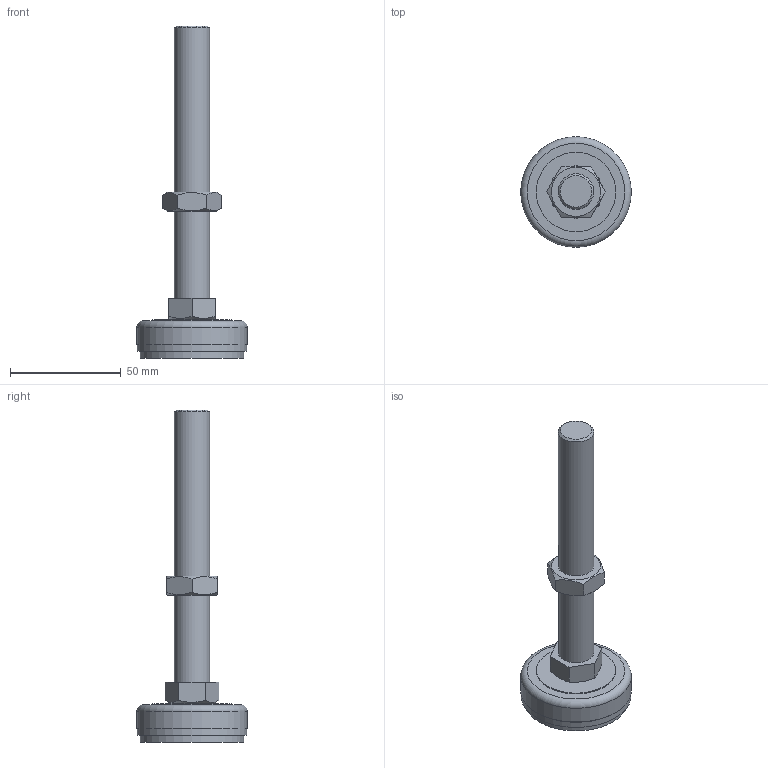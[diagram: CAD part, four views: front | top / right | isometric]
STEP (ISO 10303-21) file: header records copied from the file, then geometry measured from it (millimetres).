
FILE_DESCRIPTION(('STEP AP214'),'1');
FILE_NAME('AJ1650L150.stp','2023-06-30T01:55:37',(' '),(' '),'Spatial InterOp 3D',' ',' ');
FILE_SCHEMA(('AUTOMOTIVE_DESIGN { 1 0 10303 214 1 1 1 1 }'));
Length unit declared in the file: millimetre
Products named in the file (3): AJ1650L150; M16ﾅｯﾄ
Assembly tree (2 placements, depth 2):
  AJ1650L150
    AJ1650L150
    M16ﾅｯﾄ
Bounding box: 50 x 50 x 150 mm (x, y, z)
Volume: 59754.9 mm3; surface area: 15540.6 mm2
Topology: 2 solids, 2 shells, 34 faces, 71 edges, 47 vertices
Faces by surface type: plane 22, cylinder 7, cone 4, torus 1
Full cylindrical faces by diameter (mm): 16 x2, 22 x1, 36 x1, 46.6 x1, 49.6 x1, 50 x1
Entity records: 1312 total; most frequent: CARTESIAN_POINT 333, DIRECTION 130, ORIENTED_EDGE 110, AXIS2_PLACEMENT_3D 56, EDGE_CURVE 55, EDGE_LOOP 54, VERTEX_POINT 43, FACE_OUTER_BOUND 42
